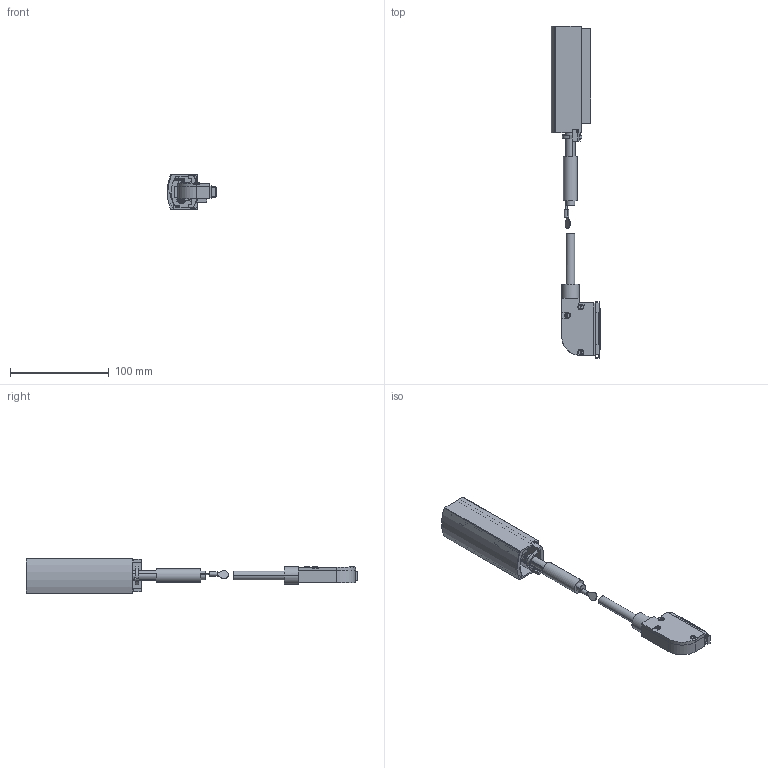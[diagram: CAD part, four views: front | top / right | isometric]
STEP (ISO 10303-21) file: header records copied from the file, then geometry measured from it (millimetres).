
FILE_DESCRIPTION((''),'2;1');
FILE_NAME('1492-ACABLE005X_SW0002','2025-12-29T09:26:43',('BBrandt'),('Rockwell Automation'),'CREO PARAMETRIC BY PTC INC, 2022424','CREO PARAMETRIC BY PTC INC, 2022424','');
FILE_SCHEMA(('CONFIG_CONTROL_DESIGN'));
Length unit declared in the file: inch
Products named in the file (1): 1492-ACABLE005X_SW0002
Bounding box: 50.06 x 335.4 x 35 mm (x, y, z)
Surface area: 57294.8 mm2 (no closed solid volume)
Topology: 0 solids, 56 shells, 317 faces, 1208 edges, 906 vertices
Faces by surface type: plane 225, cylinder 81, torus 7, bspline 4
Entity records: 13949 total; most frequent: CARTESIAN_POINT 4063, DIRECTION 2013, ORIENTED_EDGE 1758, EDGE_CURVE 1208, VERTEX_POINT 906, VECTOR 901, LINE 901, AXIS2_PLACEMENT_3D 556
